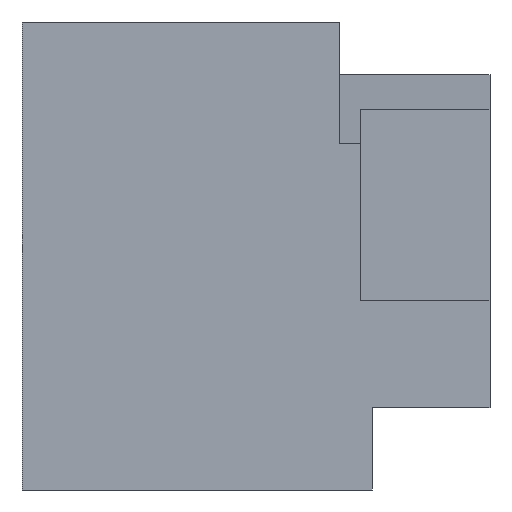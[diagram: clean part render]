
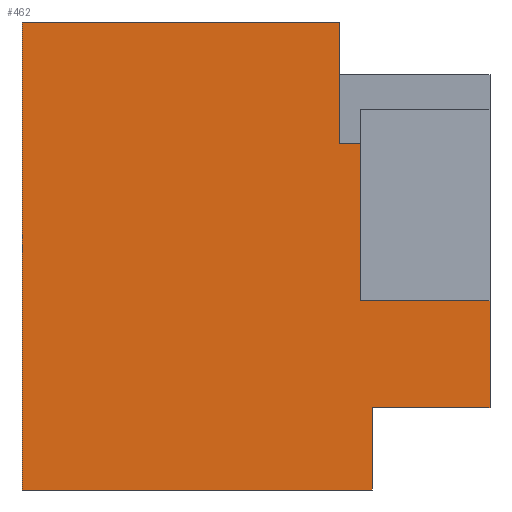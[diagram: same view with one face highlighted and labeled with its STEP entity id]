
A CAD part, left-side view. The second image highlights one B-rep face of the part: STEP entity #462.
In plain terms, the highlighted planar face has unit normal (-1, 0, 0).
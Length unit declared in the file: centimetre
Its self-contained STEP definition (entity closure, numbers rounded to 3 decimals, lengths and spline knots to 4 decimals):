
#1 = VERTEX_POINT ( 'NONE', #750 ) ;
#3 = DIRECTION ( 'NONE',  ( 0., 0., -1. ) ) ;
#7 = FACE_OUTER_BOUND ( 'NONE', #173, .T. ) ;
#21 = CARTESIAN_POINT ( 'NONE',  ( 0., 321.874, 739.7362 ) ) ;
#23 = LINE ( 'NONE', #609, #60 ) ;
#27 = CARTESIAN_POINT ( 'NONE',  ( 0., 276.7693, 404.0618 ) ) ;
#35 = EDGE_CURVE ( 'NONE', #161, #392, #96, .T. ) ;
#49 = VECTOR ( 'NONE', #749, 100. ) ;
#60 = VECTOR ( 'NONE', #728, 100. ) ;
#65 = DIRECTION ( 'NONE',  ( 0., -1., 0. ) ) ;
#71 = LINE ( 'NONE', #674, #739 ) ;
#72 = VERTEX_POINT ( 'NONE', #507 ) ;
#95 = CARTESIAN_POINT ( 'NONE',  ( 0., 276.7693, 739.7362 ) ) ;
#96 = LINE ( 'NONE', #319, #388 ) ;
#97 = VERTEX_POINT ( 'NONE', #690 ) ;
#105 = EDGE_CURVE ( 'NONE', #315, #119, #71, .T. ) ;
#108 = ORIENTED_EDGE ( 'NONE', *, *, #640, .T. ) ;
#110 = EDGE_CURVE ( 'NONE', #559, #1, #314, .T. ) ;
#119 = VERTEX_POINT ( 'NONE', #731 ) ;
#126 = VECTOR ( 'NONE', #500, 100. ) ;
#161 = VERTEX_POINT ( 'NONE', #547 ) ;
#172 = AXIS2_PLACEMENT_3D ( 'NONE', #307, #606, #313 ) ;
#173 = EDGE_LOOP ( 'NONE', ( #323, #613, #628, #713, #108, #519, #573, #508, #576, #331 ) ) ;
#185 = CARTESIAN_POINT ( 'NONE',  ( 0., 0., 1000. ) ) ;
#202 = VERTEX_POINT ( 'NONE', #21 ) ;
#219 = CARTESIAN_POINT ( 'NONE',  ( 0., 1000., 1000. ) ) ;
#223 = CARTESIAN_POINT ( 'NONE',  ( 0., 1000., 1000. ) ) ;
#244 = CARTESIAN_POINT ( 'NONE',  ( 0., 251.1462, 0. ) ) ;
#258 = EDGE_CURVE ( 'NONE', #97, #559, #712, .T. ) ;
#276 = VECTOR ( 'NONE', #686, 100. ) ;
#307 = CARTESIAN_POINT ( 'NONE',  ( 0., 1000., 1000. ) ) ;
#313 = DIRECTION ( 'NONE',  ( 0., 0., -1. ) ) ;
#314 = LINE ( 'NONE', #185, #464 ) ;
#315 = VERTEX_POINT ( 'NONE', #223 ) ;
#319 = CARTESIAN_POINT ( 'NONE',  ( 0., 251.1462, 176.0257 ) ) ;
#323 = ORIENTED_EDGE ( 'NONE', *, *, #35, .F. ) ;
#330 = DIRECTION ( 'NONE',  ( 0., 0., -1. ) ) ;
#331 = ORIENTED_EDGE ( 'NONE', *, *, #518, .T. ) ;
#332 = EDGE_CURVE ( 'NONE', #315, #72, #584, .T. ) ;
#336 = VECTOR ( 'NONE', #718, 100. ) ;
#354 = CARTESIAN_POINT ( 'NONE',  ( 0., 0., 404.0618 ) ) ;
#366 = DIRECTION ( 'NONE',  ( 0., 0., -1. ) ) ;
#372 = LINE ( 'NONE', #614, #523 ) ;
#388 = VECTOR ( 'NONE', #330, 100. ) ;
#392 = VERTEX_POINT ( 'NONE', #244 ) ;
#394 = EDGE_CURVE ( 'NONE', #161, #1, #665, .T. ) ;
#403 = VECTOR ( 'NONE', #3, 100. ) ;
#462 = ADVANCED_FACE ( 'NONE', ( #7 ), #610, .F. ) ;
#464 = VECTOR ( 'NONE', #366, 100. ) ;
#482 = DIRECTION ( 'NONE',  ( 0., -1., 0. ) ) ;
#500 = DIRECTION ( 'NONE',  ( 0., -1., 0. ) ) ;
#506 = LINE ( 'NONE', #513, #49 ) ;
#507 = CARTESIAN_POINT ( 'NONE',  ( 0., 1000., 0. ) ) ;
#508 = ORIENTED_EDGE ( 'NONE', *, *, #105, .F. ) ;
#513 = CARTESIAN_POINT ( 'NONE',  ( 0., 321.874, 739.7362 ) ) ;
#518 = EDGE_CURVE ( 'NONE', #72, #392, #372, .T. ) ;
#519 = ORIENTED_EDGE ( 'NONE', *, *, #743, .F. ) ;
#523 = VECTOR ( 'NONE', #65, 100. ) ;
#543 = EDGE_CURVE ( 'NONE', #119, #202, #23, .T. ) ;
#545 = CARTESIAN_POINT ( 'NONE',  ( 0., 0., 404.0618 ) ) ;
#547 = CARTESIAN_POINT ( 'NONE',  ( 0., 251.1462, 176.0257 ) ) ;
#559 = VERTEX_POINT ( 'NONE', #545 ) ;
#573 = ORIENTED_EDGE ( 'NONE', *, *, #543, .F. ) ;
#576 = ORIENTED_EDGE ( 'NONE', *, *, #332, .T. ) ;
#584 = LINE ( 'NONE', #219, #403 ) ;
#606 = DIRECTION ( 'NONE',  ( 1., 0., 0. ) ) ;
#609 = CARTESIAN_POINT ( 'NONE',  ( 0., 321.874, 739.7362 ) ) ;
#610 = PLANE ( 'NONE',  #172 ) ;
#613 = ORIENTED_EDGE ( 'NONE', *, *, #394, .T. ) ;
#614 = CARTESIAN_POINT ( 'NONE',  ( 0., 1000., 0. ) ) ;
#628 = ORIENTED_EDGE ( 'NONE', *, *, #110, .F. ) ;
#637 = LINE ( 'NONE', #27, #276 ) ;
#640 = EDGE_CURVE ( 'NONE', #97, #681, #637, .T. ) ;
#665 = LINE ( 'NONE', #723, #126 ) ;
#674 = CARTESIAN_POINT ( 'NONE',  ( 0., 1000., 1000. ) ) ;
#681 = VERTEX_POINT ( 'NONE', #95 ) ;
#686 = DIRECTION ( 'NONE',  ( 0., 0., 1. ) ) ;
#690 = CARTESIAN_POINT ( 'NONE',  ( 0., 276.7693, 404.0618 ) ) ;
#712 = LINE ( 'NONE', #354, #336 ) ;
#713 = ORIENTED_EDGE ( 'NONE', *, *, #258, .F. ) ;
#718 = DIRECTION ( 'NONE',  ( 0., -1., 0. ) ) ;
#723 = CARTESIAN_POINT ( 'NONE',  ( 0., 251.1462, 176.0257 ) ) ;
#728 = DIRECTION ( 'NONE',  ( 0., 0., -1. ) ) ;
#731 = CARTESIAN_POINT ( 'NONE',  ( 0., 321.874, 1000. ) ) ;
#739 = VECTOR ( 'NONE', #482, 100. ) ;
#743 = EDGE_CURVE ( 'NONE', #202, #681, #506, .T. ) ;
#749 = DIRECTION ( 'NONE',  ( 0., -1., 0. ) ) ;
#750 = CARTESIAN_POINT ( 'NONE',  ( 0., 0., 176.0257 ) ) ;
